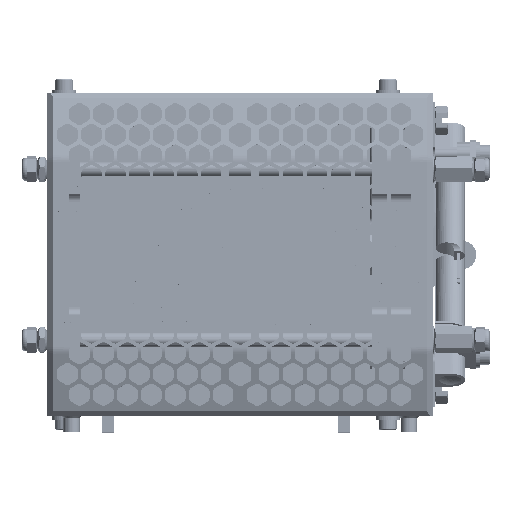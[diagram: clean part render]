
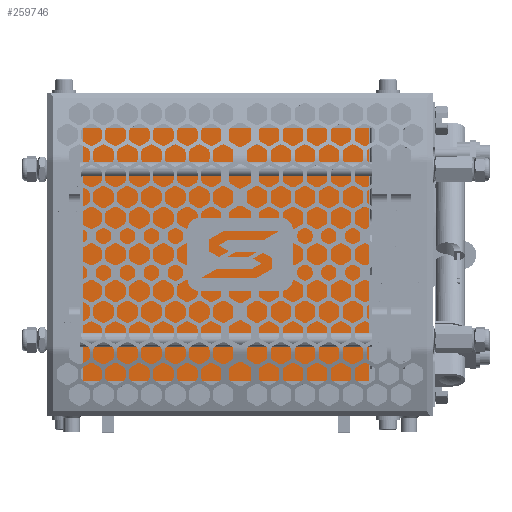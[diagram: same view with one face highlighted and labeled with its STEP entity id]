
A CAD part, top view. The second image highlights one B-rep face of the part: STEP entity #259746.
In plain terms, the highlighted planar face has unit normal (0, 0, 1) as drawn and (1, 0, 0) by its records, which use the part's own axes.
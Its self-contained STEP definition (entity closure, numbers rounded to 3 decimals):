
#43 = LINE ( 'NONE', #326066, #63115 ) ;
#10505 = VERTEX_POINT ( 'NONE', #224948 ) ;
#21510 = LINE ( 'NONE', #274448, #237687 ) ;
#47718 = VERTEX_POINT ( 'NONE', #252506 ) ;
#49320 = DIRECTION ( 'NONE',  ( 0., 0., -1. ) ) ;
#51199 = DIRECTION ( 'NONE',  ( 0., -1., 0. ) ) ;
#51995 = CARTESIAN_POINT ( 'NONE',  ( 17., 37.5, 70.6 ) ) ;
#58278 = VERTEX_POINT ( 'NONE', #188043 ) ;
#63115 = VECTOR ( 'NONE', #49320, 1000. ) ;
#78925 = EDGE_CURVE ( 'NONE', #47718, #163726, #21510, .T. ) ;
#97489 = CARTESIAN_POINT ( 'NONE',  ( 17., 37.5, 0. ) ) ;
#109340 = LINE ( 'NONE', #302340, #350352 ) ;
#112802 = EDGE_CURVE ( 'NONE', #163726, #58278, #153884, .T. ) ;
#150261 = DIRECTION ( 'NONE',  ( 0., -1., 0. ) ) ;
#153884 = LINE ( 'NONE', #97489, #250404 ) ;
#163726 = VERTEX_POINT ( 'NONE', #335075 ) ;
#188043 = CARTESIAN_POINT ( 'NONE',  ( 17., -37.5, 0. ) ) ;
#213900 = EDGE_CURVE ( 'NONE', #47718, #10505, #109340, .T. ) ;
#216316 = ORIENTED_EDGE ( 'NONE', *, *, #213900, .T. ) ;
#222979 = PLANE ( 'NONE',  #287926 ) ;
#224948 = CARTESIAN_POINT ( 'NONE',  ( 17., -37.5, 70.6 ) ) ;
#237687 = VECTOR ( 'NONE', #354689, 1000. ) ;
#246745 = DIRECTION ( 'NONE',  ( 1., 0., 0. ) ) ;
#248927 = ORIENTED_EDGE ( 'NONE', *, *, #112802, .F. ) ;
#250404 = VECTOR ( 'NONE', #150261, 1000. ) ;
#252506 = CARTESIAN_POINT ( 'NONE',  ( 17., 37.5, 70.6 ) ) ;
#259746 = ADVANCED_FACE ( 'NONE', ( #301356 ), #222979, .T. ) ;
#274448 = CARTESIAN_POINT ( 'NONE',  ( 17., 37.5, 70.6 ) ) ;
#287926 = AXIS2_PLACEMENT_3D ( 'NONE', #51995, #246745, #357846 ) ;
#301356 = FACE_OUTER_BOUND ( 'NONE', #309504, .T. ) ;
#302340 = CARTESIAN_POINT ( 'NONE',  ( 17., 37.5, 70.6 ) ) ;
#309504 = EDGE_LOOP ( 'NONE', ( #248927, #317674, #216316, #333719 ) ) ;
#317674 = ORIENTED_EDGE ( 'NONE', *, *, #78925, .F. ) ;
#326066 = CARTESIAN_POINT ( 'NONE',  ( 17., -37.5, 70.6 ) ) ;
#333719 = ORIENTED_EDGE ( 'NONE', *, *, #342030, .T. ) ;
#335075 = CARTESIAN_POINT ( 'NONE',  ( 17., 37.5, 0. ) ) ;
#342030 = EDGE_CURVE ( 'NONE', #10505, #58278, #43, .T. ) ;
#350352 = VECTOR ( 'NONE', #51199, 1000. ) ;
#354689 = DIRECTION ( 'NONE',  ( 0., 0., -1. ) ) ;
#357846 = DIRECTION ( 'NONE',  ( 0., 1., 0. ) ) ;
